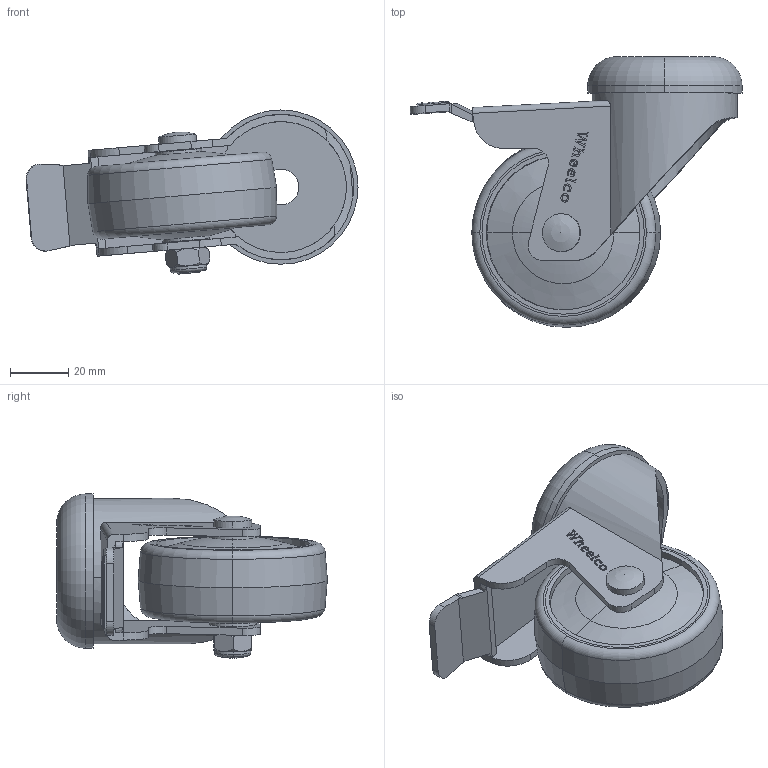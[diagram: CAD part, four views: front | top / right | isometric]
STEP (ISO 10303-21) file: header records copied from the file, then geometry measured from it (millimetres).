
FILE_DESCRIPTION (( 'STEP AP214' ), '1' );
FILE_NAME ('WLR65-H-TB 12MM.step', '2024-01-15T01:48:24', ( '' ), ( '' ), 'SwSTEP 2.0', 'SolidWorks 2022', '' );
FILE_SCHEMA (( 'AUTOMOTIVE_DESIGN' ));
Length unit declared in the file: millimetre
Products named in the file (6): WLR65-H-TB 12MM; M8Nyloc-WHITE; WL65-H-TB; WL65-H-TB 12MM CAP; WC-M8x48; WLR65
Assembly tree (5 placements, depth 2):
  WLR65-H-TB 12MM
    WC-M8x48
    M8Nyloc-WHITE
    WLR65
    WL65-H-TB
    WL65-H-TB 12MM CAP
Bounding box: 114.05 x 93 x 56.38 mm (x, y, z)
Volume: 131241.8 mm3; surface area: 41114 mm2
Topology: 5 solids, 5 shells, 338 faces, 880 edges, 571 vertices
Faces by surface type: plane 145, cylinder 98, bspline 58, cone 22, torus 14, sphere 1
Entity records: 16082 total; most frequent: CARTESIAN_POINT 8081, ORIENTED_EDGE 1754, DIRECTION 1346, EDGE_CURVE 877, VERTEX_POINT 569, VECTOR 494, LINE 494, AXIS2_PLACEMENT_3D 426
